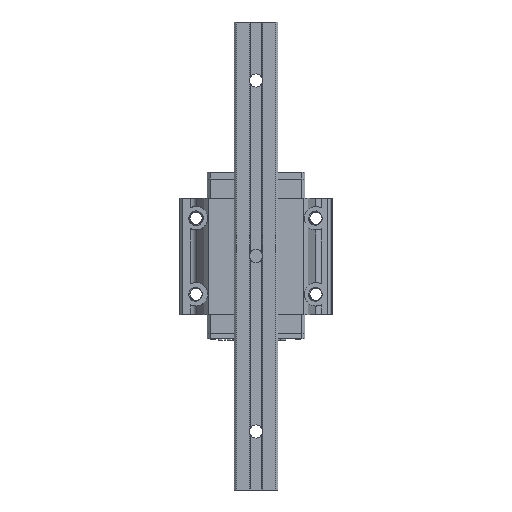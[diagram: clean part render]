
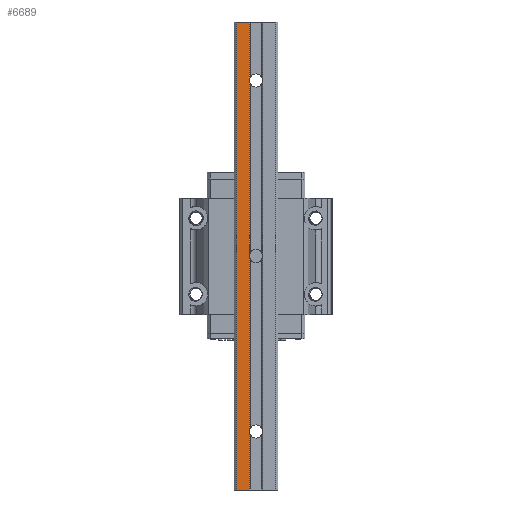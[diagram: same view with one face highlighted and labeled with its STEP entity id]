
A CAD part, front view. The second image highlights one B-rep face of the part: STEP entity #6689.
In plain terms, the highlighted planar face has unit normal (0, -1, 0).
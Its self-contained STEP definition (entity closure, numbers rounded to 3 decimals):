
#6164=PLANE('',#20997);
#6689=ADVANCED_FACE('',(#7693),#6164,.T.);
#7693=FACE_OUTER_BOUND('',#8472,.T.);
#8472=EDGE_LOOP('',(#9926,#9927,#9928,#9929));
#9926=ORIENTED_EDGE('',*,*,#15858,.T.);
#9927=ORIENTED_EDGE('',*,*,#15816,.F.);
#9928=ORIENTED_EDGE('',*,*,#15859,.F.);
#9929=ORIENTED_EDGE('',*,*,#15784,.T.);
#14291=VERTEX_POINT('',#25961);
#14292=VERTEX_POINT('',#25963);
#14319=VERTEX_POINT('',#26023);
#14320=VERTEX_POINT('',#26025);
#15784=EDGE_CURVE('',#14292,#14291,#18018,.T.);
#15816=EDGE_CURVE('',#14319,#14320,#18040,.T.);
#15858=EDGE_CURVE('',#14291,#14320,#18065,.T.);
#15859=EDGE_CURVE('',#14292,#14319,#18066,.T.);
#18018=LINE('',#25962,#19429);
#18040=LINE('',#26024,#19451);
#18065=LINE('',#26107,#19476);
#18066=LINE('',#26109,#19477);
#19429=VECTOR('',#22131,1.);
#19451=VECTOR('',#22177,1.);
#19476=VECTOR('',#22270,1.);
#19477=VECTOR('',#22273,1.);
#20997=AXIS2_PLACEMENT_3D('',#26110,#22274,#22275);
#22131=DIRECTION('',(-1.,0.,0.));
#22177=DIRECTION('',(-1.,0.,0.));
#22270=DIRECTION('',(0.,0.,-1.));
#22273=DIRECTION('',(0.,0.,-1.));
#22274=DIRECTION('',(0.,-1.,0.));
#22275=DIRECTION('',(-1.,0.,0.));
#25961=CARTESIAN_POINT('',(-6.8,-24.,100.));
#25962=CARTESIAN_POINT('',(-2.35,-24.,100.));
#25963=CARTESIAN_POINT('',(-2.35,-24.,100.));
#26023=CARTESIAN_POINT('',(-2.35,-24.,-60.));
#26024=CARTESIAN_POINT('',(-2.35,-24.,-60.));
#26025=CARTESIAN_POINT('',(-6.8,-24.,-60.));
#26107=CARTESIAN_POINT('',(-6.8,-24.,100.));
#26109=CARTESIAN_POINT('',(-2.35,-24.,100.));
#26110=CARTESIAN_POINT('',(-2.35,-24.,50.));
